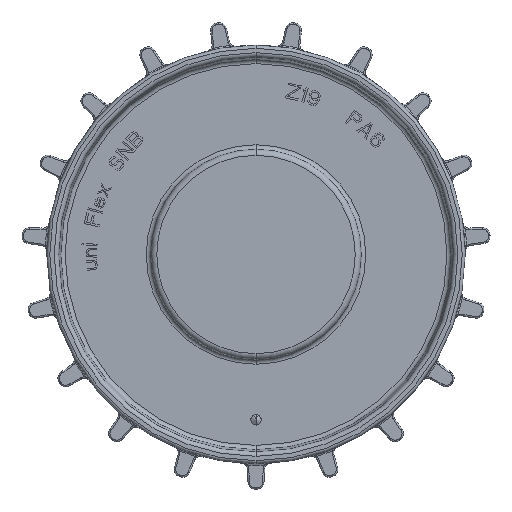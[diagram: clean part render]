
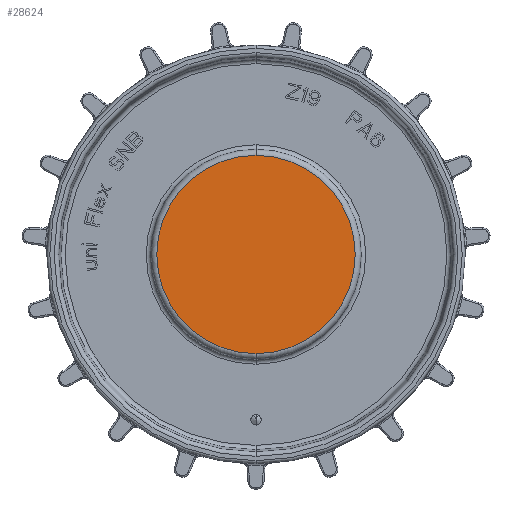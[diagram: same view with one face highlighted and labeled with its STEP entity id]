
A CAD part, left-side view. The second image highlights one B-rep face of the part: STEP entity #28624.
In plain terms, the highlighted planar face has unit normal (-1, 0, 0).
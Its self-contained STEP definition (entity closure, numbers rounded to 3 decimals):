
#9033=CARTESIAN_POINT('',(-12.5,0.,0.));
#9034=DIRECTION('',(1.,0.,0.));
#9035=DIRECTION('',(0.,0.,-1.));
#9036=AXIS2_PLACEMENT_3D('',#9033,#9034,#9035);
#9038=CARTESIAN_POINT('',(-12.5,0.,0.));
#9039=DIRECTION('',(-1.,0.,0.));
#9040=DIRECTION('',(0.,0.,-1.));
#9041=AXIS2_PLACEMENT_3D('',#9038,#9039,#9040);
#12388=CARTESIAN_POINT('',(-12.5,0.,-33.));
#12390=VERTEX_POINT('',#12388);
#12396=CARTESIAN_POINT('',(-12.5,0.,33.));
#12398=VERTEX_POINT('',#12396);
#28615=CARTESIAN_POINT('',(-12.5,0.,0.));
#28616=DIRECTION('',(-1.,0.,0.));
#28617=DIRECTION('',(0.,0.,-1.));
#28618=AXIS2_PLACEMENT_3D('',#28615,#28616,#28617);
#28619=PLANE('',#28618);
#28620=ORIENTED_EDGE('',*,*,#28610,.T.);
#28621=ORIENTED_EDGE('',*,*,#28594,.F.);
#28622=EDGE_LOOP('',(#28620,#28621));
#28623=FACE_OUTER_BOUND('',#28622,.F.);
#9037=CIRCLE('',#9036,33.);
#9042=CIRCLE('',#9041,33.);
#28594=EDGE_CURVE('',#12390,#12398,#9042,.T.);
#28610=EDGE_CURVE('',#12390,#12398,#9037,.T.);
#28624=ADVANCED_FACE('',(#28623),#28619,.T.);
